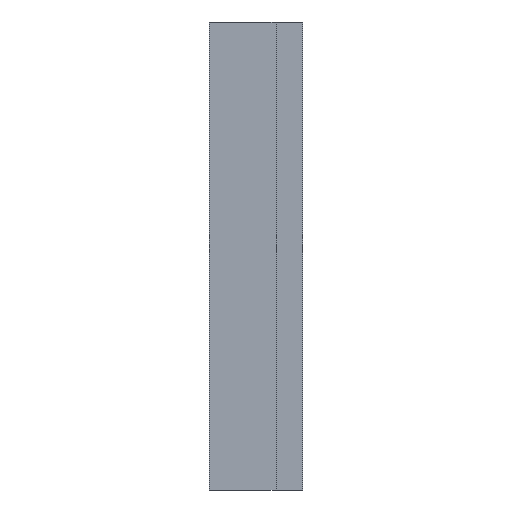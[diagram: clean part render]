
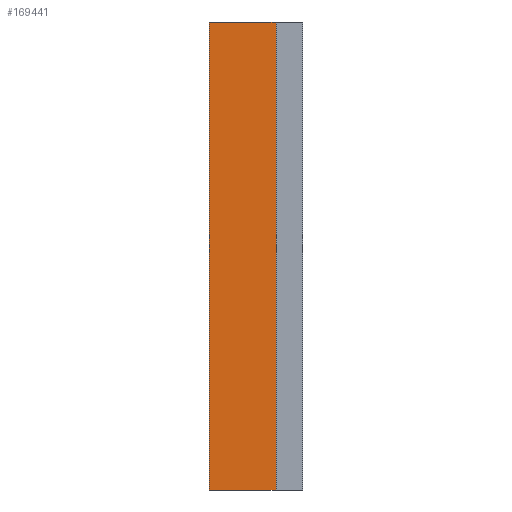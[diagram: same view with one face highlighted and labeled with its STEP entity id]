
A CAD part, left-side view. The second image highlights one B-rep face of the part: STEP entity #169441.
In plain terms, the highlighted planar face has unit normal (-1, 0, 0).
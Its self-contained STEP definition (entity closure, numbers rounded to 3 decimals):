
#656 = VERTEX_POINT ( 'NONE', #118912 ) ;
#6275 = LINE ( 'NONE', #23318, #26860 ) ;
#9123 = DIRECTION ( 'NONE',  ( 0., -1., 0. ) ) ;
#9545 = ORIENTED_EDGE ( 'NONE', *, *, #138104, .F. ) ;
#13910 = CARTESIAN_POINT ( 'NONE',  ( -5.5, 1.4, 3.5 ) ) ;
#17242 = VERTEX_POINT ( 'NONE', #13910 ) ;
#23318 = CARTESIAN_POINT ( 'NONE',  ( -5.5, 1.4, 3.5 ) ) ;
#23453 = VECTOR ( 'NONE', #85393, 1000. ) ;
#26860 = VECTOR ( 'NONE', #9123, 1000. ) ;
#27332 = FACE_OUTER_BOUND ( 'NONE', #53049, .T. ) ;
#27582 = CARTESIAN_POINT ( 'NONE',  ( -5.5, 1.4, -3.5 ) ) ;
#35440 = DIRECTION ( 'NONE',  ( 0., 0., 1. ) ) ;
#35885 = CARTESIAN_POINT ( 'NONE',  ( -5.5, 0.4, 3.5 ) ) ;
#43956 = CARTESIAN_POINT ( 'NONE',  ( -5.5, 1.4, -3.5 ) ) ;
#48101 = DIRECTION ( 'NONE',  ( 1., 0., 0. ) ) ;
#52007 = AXIS2_PLACEMENT_3D ( 'NONE', #131374, #48101, #176591 ) ;
#53049 = EDGE_LOOP ( 'NONE', ( #57864, #183453, #9545, #182820 ) ) ;
#57864 = ORIENTED_EDGE ( 'NONE', *, *, #157784, .T. ) ;
#58246 = LINE ( 'NONE', #43956, #135083 ) ;
#69633 = DIRECTION ( 'NONE',  ( 0., -1., 0. ) ) ;
#83276 = PLANE ( 'NONE',  #52007 ) ;
#85393 = DIRECTION ( 'NONE',  ( 0., 0., 1. ) ) ;
#96012 = LINE ( 'NONE', #166819, #144129 ) ;
#110574 = CARTESIAN_POINT ( 'NONE',  ( -5.5, 0.4, -3.5 ) ) ;
#111916 = VERTEX_POINT ( 'NONE', #35885 ) ;
#118912 = CARTESIAN_POINT ( 'NONE',  ( -5.5, 1.4, -3.5 ) ) ;
#126906 = VERTEX_POINT ( 'NONE', #110574 ) ;
#131374 = CARTESIAN_POINT ( 'NONE',  ( -5.5, 1.4, -3.5 ) ) ;
#135083 = VECTOR ( 'NONE', #69633, 1000. ) ;
#138104 = EDGE_CURVE ( 'NONE', #656, #17242, #157150, .T. ) ;
#138953 = EDGE_CURVE ( 'NONE', #656, #126906, #58246, .T. ) ;
#144129 = VECTOR ( 'NONE', #35440, 1000. ) ;
#157150 = LINE ( 'NONE', #27582, #23453 ) ;
#157784 = EDGE_CURVE ( 'NONE', #126906, #111916, #96012, .T. ) ;
#166819 = CARTESIAN_POINT ( 'NONE',  ( -5.5, 0.4, -3.5 ) ) ;
#167963 = EDGE_CURVE ( 'NONE', #17242, #111916, #6275, .T. ) ;
#169441 = ADVANCED_FACE ( 'NONE', ( #27332 ), #83276, .F. ) ;
#176591 = DIRECTION ( 'NONE',  ( 0., 0., -1. ) ) ;
#182820 = ORIENTED_EDGE ( 'NONE', *, *, #138953, .T. ) ;
#183453 = ORIENTED_EDGE ( 'NONE', *, *, #167963, .F. ) ;
